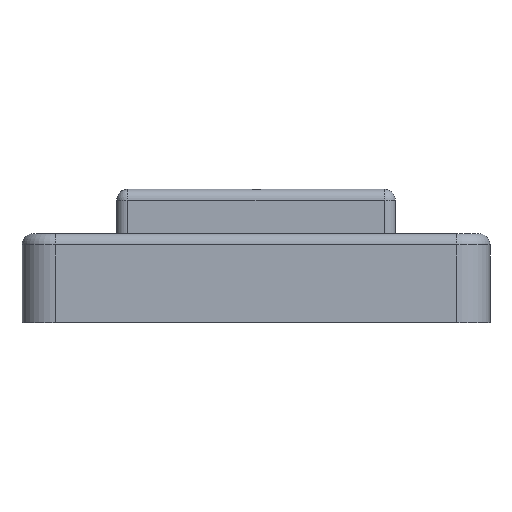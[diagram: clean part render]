
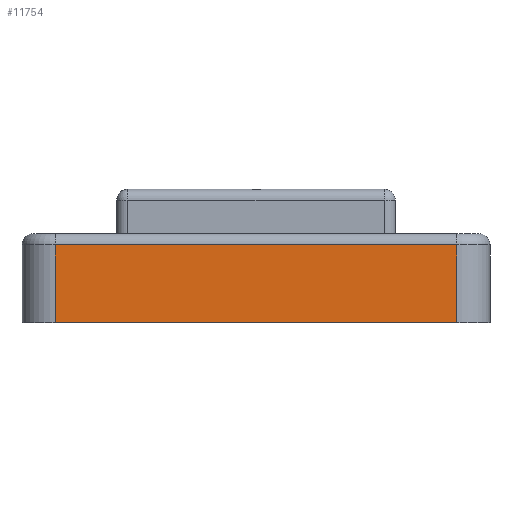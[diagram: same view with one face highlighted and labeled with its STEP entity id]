
A CAD part, front view. The second image highlights one B-rep face of the part: STEP entity #11754.
In plain terms, the highlighted planar face has unit normal (0, -1, 0).
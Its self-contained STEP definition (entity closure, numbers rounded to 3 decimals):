
#2470=FACE_OUTER_BOUND('',#3038,.T.);
#3038=EDGE_LOOP('',(#8594,#8595,#8596,#8597));
#4522=LINE('',#17826,#5141);
#4526=LINE('',#17835,#5145);
#4527=LINE('',#17839,#5146);
#4528=LINE('',#17840,#5147);
#5141=VECTOR('',#14078,10.);
#5145=VECTOR('',#14086,10.);
#5146=VECTOR('',#14091,10.);
#5147=VECTOR('',#14092,10.);
#5774=VERTEX_POINT('',#17795);
#5781=VERTEX_POINT('',#17822);
#5784=VERTEX_POINT('',#17834);
#5785=VERTEX_POINT('',#17838);
#6889=EDGE_CURVE('',#5774,#5781,#4522,.T.);
#6893=EDGE_CURVE('',#5781,#5784,#4526,.T.);
#6895=EDGE_CURVE('',#5785,#5774,#4527,.T.);
#6896=EDGE_CURVE('',#5785,#5784,#4528,.T.);
#8594=ORIENTED_EDGE('',*,*,#6889,.F.);
#8595=ORIENTED_EDGE('',*,*,#6895,.F.);
#8596=ORIENTED_EDGE('',*,*,#6896,.T.);
#8597=ORIENTED_EDGE('',*,*,#6893,.F.);
#11688=PLANE('',#12387);
#11754=ADVANCED_FACE('',(#2470),#11688,.T.);
#12387=AXIS2_PLACEMENT_3D('',#17837,#14089,#14090);
#14078=DIRECTION('',(1.,0.,0.));
#14086=DIRECTION('',(0.,0.,-1.));
#14089=DIRECTION('center_axis',(0.,-1.,0.));
#14090=DIRECTION('ref_axis',(1.,0.,0.));
#14091=DIRECTION('',(0.,0.,1.));
#14092=DIRECTION('',(1.,0.,0.));
#17795=CARTESIAN_POINT('',(-36.,-42.,14.));
#17822=CARTESIAN_POINT('',(36.,-42.,14.));
#17826=CARTESIAN_POINT('',(-21.,-42.,14.));
#17834=CARTESIAN_POINT('',(36.,-42.,0.));
#17835=CARTESIAN_POINT('',(36.,-42.,0.));
#17837=CARTESIAN_POINT('Origin',(-42.,-42.,0.));
#17838=CARTESIAN_POINT('',(-36.,-42.,0.));
#17839=CARTESIAN_POINT('',(-36.,-42.,0.));
#17840=CARTESIAN_POINT('',(-42.,-42.,0.));
